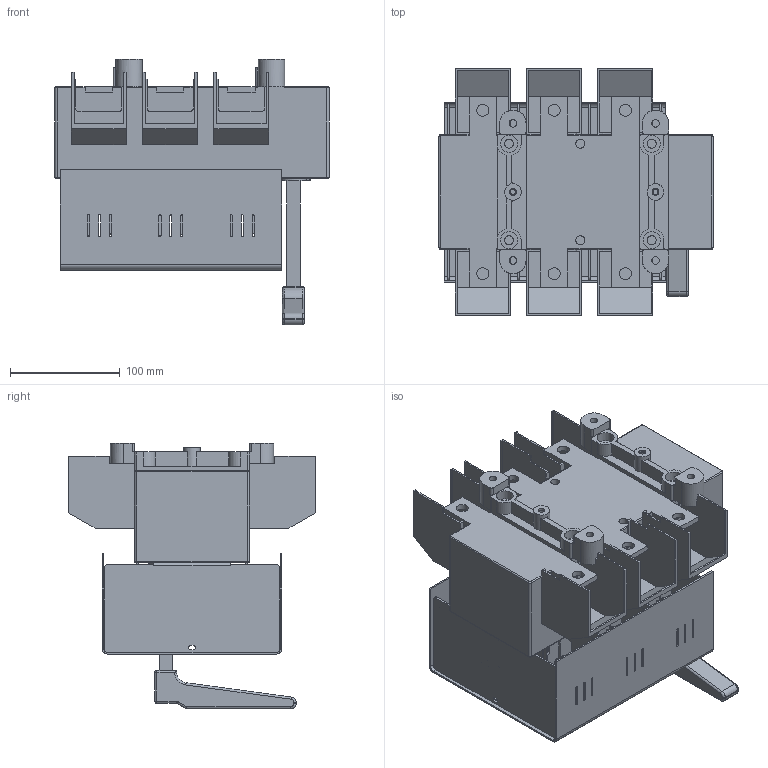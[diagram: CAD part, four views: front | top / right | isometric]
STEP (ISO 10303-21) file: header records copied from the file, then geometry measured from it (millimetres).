
FILE_DESCRIPTION(/* description */ (''),/* implementation_level */ '2;1');
FILE_NAME(/* name */ 'RAB 2 P3-R z oslona zaciskow.stp',/* time_stamp */ '2021-08-19T13:10:36+02:00',/* author */ (''),/* organization */ (''),/* preprocessor_version */ 'ST-DEVELOPER v18.1',/* originating_system */ 'SIEMENS PLM Software NX 1965',/* authorisation */ '');
FILE_SCHEMA (('AUTOMOTIVE_DESIGN { 1 0 10303 214 3 1 1 1 }'));
Length unit declared in the file: millimetre
Products named in the file (1): RAB 2 P3-R z oslona zaciskow
Bounding box: 250 x 225 x 242.3 mm (x, y, z)
Volume: 2647014.4 mm3; surface area: 567582.8 mm2
Topology: 1 solids, 1 shells, 1186 faces, 3351 edges, 2181 vertices
Faces by surface type: plane 797, cylinder 367, bspline 8, torus 8, sphere 6
Full cylindrical faces by diameter (mm): 4.8 x2, 6.2 x2, 7 x4, 8.2 x6, 11 x6, 14 x4, 15 x2, 15.5 x4
Entity records: 38301 total; most frequent: CARTESIAN_POINT 6837, ORIENTED_EDGE 6602, DIRECTION 6437, EDGE_CURVE 3301, LINE 2507, VECTOR 2507, VERTEX_POINT 2164, AXIS2_PLACEMENT_3D 1965
